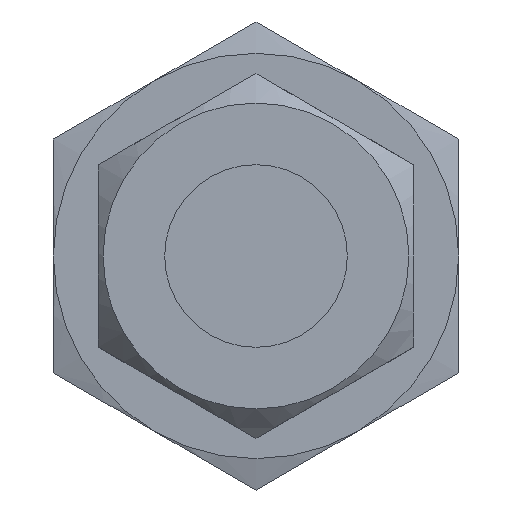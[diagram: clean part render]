
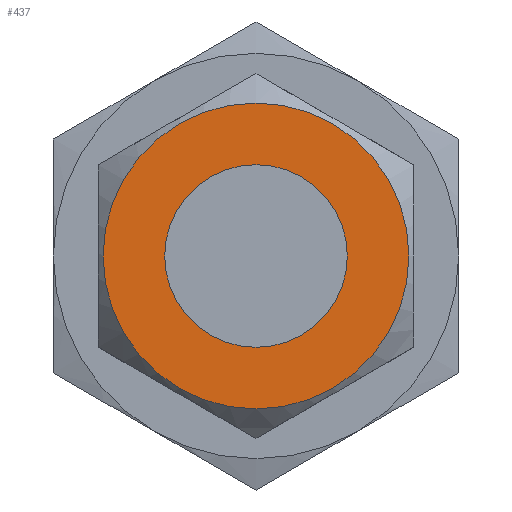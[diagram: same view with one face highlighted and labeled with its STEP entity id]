
A CAD part, left-side view. The second image highlights one B-rep face of the part: STEP entity #437.
In plain terms, the highlighted planar face has unit normal (-1, 0, 0).
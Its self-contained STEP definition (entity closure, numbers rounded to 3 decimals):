
#437 = ADVANCED_FACE( '', ( #1173, #1174 ), #1175, .T. );
#1173 = FACE_BOUND( '', #2202, .T. );
#1174 = FACE_OUTER_BOUND( '', #2203, .T. );
#1175 = PLANE( '', #2204 );
#2202 = EDGE_LOOP( '', ( #3703 ) );
#2203 = EDGE_LOOP( '', ( #3704 ) );
#2204 = AXIS2_PLACEMENT_3D( '', #3705, #3706, #3707 );
#3703 = ORIENTED_EDGE( '', *, *, #6095, .T. );
#3704 = ORIENTED_EDGE( '', *, *, #6096, .F. );
#3705 = CARTESIAN_POINT( '', ( -37.643, -10.912, 10.912 ) );
#3706 = DIRECTION( '', ( -1., 0., 0. ) );
#3707 = DIRECTION( '', ( 0., 1., 0. ) );
#6095 = EDGE_CURVE( '', #7241, #7241, #7242, .T. );
#6096 = EDGE_CURVE( '', #7243, #7243, #7244, .F. );
#7241 = VERTEX_POINT( '', #9201 );
#7242 = CIRCLE( '', #9202, 6.439 );
#7243 = VERTEX_POINT( '', #9203 );
#7244 = CIRCLE( '', #9204, 10.782 );
#9201 = CARTESIAN_POINT( '', ( -37.643, 0., 6.439 ) );
#9202 = AXIS2_PLACEMENT_3D( '', #11207, #11208, #11209 );
#9203 = CARTESIAN_POINT( '', ( -37.643, 0., -10.782 ) );
#9204 = AXIS2_PLACEMENT_3D( '', #11210, #11211, #11212 );
#11207 = CARTESIAN_POINT( '', ( -37.643, 0., 0. ) );
#11208 = DIRECTION( '', ( 1., 0., 0. ) );
#11209 = DIRECTION( '', ( 0., 0., 1. ) );
#11210 = CARTESIAN_POINT( '', ( -37.643, 0., 0. ) );
#11211 = DIRECTION( '', ( -1., 0., 0. ) );
#11212 = DIRECTION( '', ( 0., 1., 0. ) );
